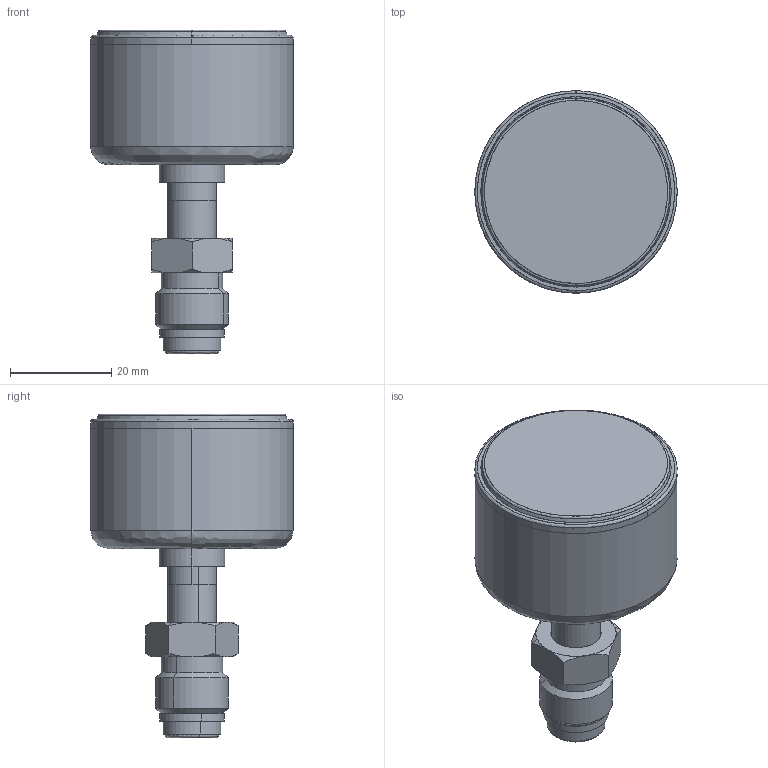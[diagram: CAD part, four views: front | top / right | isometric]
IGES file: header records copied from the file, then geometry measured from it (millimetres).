
Start section: SolidWorks IGES file using analytic representation for surfaces
Global section: file name: C:\Users\hmei\OneDrive - Illinois Tool Works, Inc\Documents\#Project\Gauge\HAI'S PRESSURE GAUGE\C15-SM.IGS; native system: SolidWorks 2023; preprocessor: SolidWorks 2023; author: HMei; date: 250304.143340; units: millimetre
Bounding box: 40 x 40 x 64 mm (x, y, z)
Surface area: 15513.9 mm2 (no closed solid volume)
Topology: 0 solids, 0 shells, 92 faces, 1814 edges, 1814 vertices
Faces by surface type: revolution 54, bspline 38
